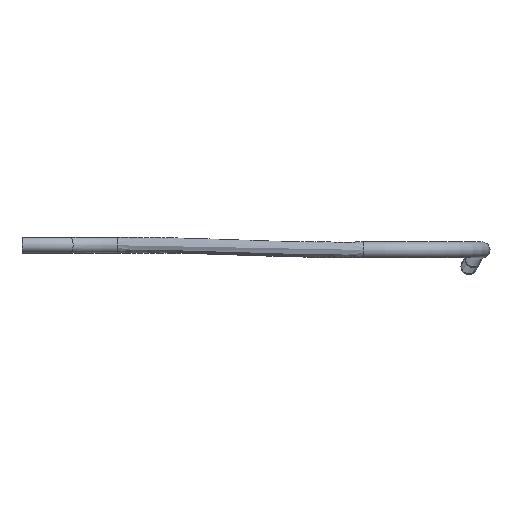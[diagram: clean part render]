
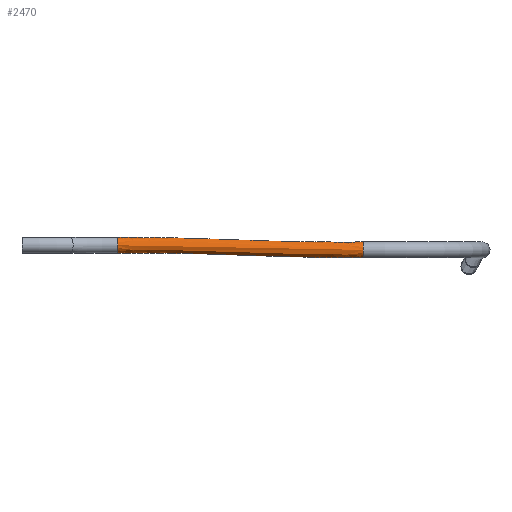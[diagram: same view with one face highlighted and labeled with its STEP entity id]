
A CAD part, front view. The second image highlights one B-rep face of the part: STEP entity #2470.
In plain terms, the highlighted free-form (B-spline) face has degree [6, 8] with [7, 9] control points.
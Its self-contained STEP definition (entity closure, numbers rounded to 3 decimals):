
#2449 = VERTEX_POINT('',#2450);
#2450 = CARTESIAN_POINT('',(-4.5,-16.412,2.037));
#2457 = EDGE_CURVE('',#2449,#2449,#2458,.T.);
#2458 = CIRCLE('',#2459,0.3);
#2459 = AXIS2_PLACEMENT_3D('',#2460,#2461,#2462);
#2460 = CARTESIAN_POINT('',(-4.5,-16.113,2.038));
#2461 = DIRECTION('',(1.,0.,0.));
#2462 = DIRECTION('',(0.,-1.,0.));
#2470 = ADVANCED_FACE('',(#2471),#2499,.T.);
#2471 = FACE_BOUND('',#2472,.T.);
#2472 = EDGE_LOOP('',(#2473,#2487,#2497,#2498));
#2473 = ORIENTED_EDGE('',*,*,#2474,.T.);
#2474 = EDGE_CURVE('',#2449,#2475,#2477,.T.);
#2475 = VERTEX_POINT('',#2476);
#2476 = CARTESIAN_POINT('',(-13.8,-16.412,2.212));
#2477 = ( BOUNDED_CURVE() B_SPLINE_CURVE(8,(#2478,#2479,#2480,#2481,
    #2482,#2483,#2484,#2485,#2486),.UNSPECIFIED.,.F.,.F.) 
B_SPLINE_CURVE_WITH_KNOTS((9,9),(0.,1.),.PIECEWISE_BEZIER_KNOTS.) CURVE(
) GEOMETRIC_REPRESENTATION_ITEM() RATIONAL_B_SPLINE_CURVE((
    1.669,1.669,1.669,1.669,
    1.669,1.669,1.669,1.669,
1.669)) REPRESENTATION_ITEM('') );
#2478 = CARTESIAN_POINT('',(-4.5,-16.412,2.037));
#2479 = CARTESIAN_POINT('',(-5.663,-16.412,2.037));
#2480 = CARTESIAN_POINT('',(-6.825,-16.412,
    2.037));
#2481 = CARTESIAN_POINT('',(-7.988,-16.412,
    2.069));
#2482 = CARTESIAN_POINT('',(-9.15,-16.412,
    2.125));
#2483 = CARTESIAN_POINT('',(-10.313,-16.412,
    2.181));
#2484 = CARTESIAN_POINT('',(-11.475,-16.412,
    2.212));
#2485 = CARTESIAN_POINT('',(-12.638,-16.412,2.212));
#2486 = CARTESIAN_POINT('',(-13.8,-16.412,2.212));
#2487 = ORIENTED_EDGE('',*,*,#2488,.F.);
#2488 = EDGE_CURVE('',#2475,#2475,#2489,.T.);
#2489 = ( BOUNDED_CURVE() B_SPLINE_CURVE(6,(#2490,#2491,#2492,#2493,
#2494,#2495,#2496),.UNSPECIFIED.,.T.,.F.) B_SPLINE_CURVE_WITH_KNOTS((1,6
    ,6,1),(-6.283,0.,6.283,12.566),
.UNSPECIFIED.) CURVE() GEOMETRIC_REPRESENTATION_ITEM() 
RATIONAL_B_SPLINE_CURVE((1.669,1.037,1.038,
    0.854,1.038,1.037,1.669)) 
REPRESENTATION_ITEM('') );
#2490 = CARTESIAN_POINT('',(-13.8,-16.412,2.212));
#2491 = CARTESIAN_POINT('',(-13.8,-16.413,2.711));
#2492 = CARTESIAN_POINT('',(-13.8,-15.797,2.783));
#2493 = CARTESIAN_POINT('',(-13.8,-15.288,2.213));
#2494 = CARTESIAN_POINT('',(-13.8,-15.796,1.643));
#2495 = CARTESIAN_POINT('',(-13.8,-16.412,1.714));
#2496 = CARTESIAN_POINT('',(-13.8,-16.412,2.212));
#2497 = ORIENTED_EDGE('',*,*,#2474,.F.);
#2498 = ORIENTED_EDGE('',*,*,#2457,.F.);
#2499 = ( BOUNDED_SURFACE() B_SPLINE_SURFACE(6,8,(
    (#2500,#2501,#2502,#2503,#2504,#2505,#2506,#2507,#2508)
    ,(#2509,#2510,#2511,#2512,#2513,#2514,#2515,#2516,#2517)
    ,(#2518,#2519,#2520,#2521,#2522,#2523,#2524,#2525,#2526)
    ,(#2527,#2528,#2529,#2530,#2531,#2532,#2533,#2534,#2535)
    ,(#2536,#2537,#2538,#2539,#2540,#2541,#2542,#2543,#2544)
    ,(#2545,#2546,#2547,#2548,#2549,#2550,#2551,#2552,#2553)
    ,(#2554,#2555,#2556,#2557,#2558,#2559,#2560,#2561,#2562
)),.UNSPECIFIED.,.T.,.F.,.F.) B_SPLINE_SURFACE_WITH_KNOTS((1,6,6,1),(9,9
    ),(-6.283,0.,6.283,12.566),(0.,1.),
.UNSPECIFIED.) GEOMETRIC_REPRESENTATION_ITEM() RATIONAL_B_SPLINE_SURFACE
((
    (1.669,1.669,1.669,1.669
      ,1.669,1.669,1.669,1.669
      ,1.669)
    ,(1.037,1.037,1.037,1.037
      ,1.037,1.037,1.037,1.037
      ,1.037)
    ,(1.038,1.038,1.038,1.038
      ,1.038,1.038,1.038,1.038
      ,1.038)
    ,(0.854,0.854,0.854,0.854
      ,0.854,0.854,0.854,0.854
      ,0.854)
    ,(1.038,1.038,1.038,1.038
      ,1.038,1.038,1.038,1.038
      ,1.038)
    ,(1.037,1.037,1.037,1.037
      ,1.037,1.037,1.037,1.037
      ,1.037)
    ,(1.669,1.669,1.669,1.669
      ,1.669,1.669,1.669,1.669
,1.669))) REPRESENTATION_ITEM('') SURFACE() );
#2500 = CARTESIAN_POINT('',(-4.5,-16.412,2.037));
#2501 = CARTESIAN_POINT('',(-5.663,-16.412,2.037));
#2502 = CARTESIAN_POINT('',(-6.825,-16.412,
    2.037));
#2503 = CARTESIAN_POINT('',(-7.988,-16.412,
    2.069));
#2504 = CARTESIAN_POINT('',(-9.15,-16.412,
    2.125));
#2505 = CARTESIAN_POINT('',(-10.313,-16.412,
    2.181));
#2506 = CARTESIAN_POINT('',(-11.475,-16.412,
    2.212));
#2507 = CARTESIAN_POINT('',(-12.638,-16.412,2.212));
#2508 = CARTESIAN_POINT('',(-13.8,-16.412,2.212));
#2509 = CARTESIAN_POINT('',(-4.5,-16.413,2.536));
#2510 = CARTESIAN_POINT('',(-5.663,-16.413,2.536));
#2511 = CARTESIAN_POINT('',(-6.815,-16.413,
    2.536));
#2512 = CARTESIAN_POINT('',(-7.967,-16.413,
    2.567));
#2513 = CARTESIAN_POINT('',(-9.126,-16.413,
    2.622));
#2514 = CARTESIAN_POINT('',(-10.292,-16.413,
    2.679));
#2515 = CARTESIAN_POINT('',(-11.465,-16.413,
    2.711));
#2516 = CARTESIAN_POINT('',(-12.638,-16.413,2.711));
#2517 = CARTESIAN_POINT('',(-13.8,-16.413,2.711));
#2518 = CARTESIAN_POINT('',(-4.5,-15.797,2.608));
#2519 = CARTESIAN_POINT('',(-5.663,-15.797,2.608));
#2520 = CARTESIAN_POINT('',(-6.814,-15.797,
    2.608));
#2521 = CARTESIAN_POINT('',(-7.964,-15.797,
    2.639));
#2522 = CARTESIAN_POINT('',(-9.122,-15.797,
    2.694));
#2523 = CARTESIAN_POINT('',(-10.289,-15.797,
    2.752));
#2524 = CARTESIAN_POINT('',(-11.464,-15.797,
    2.783));
#2525 = CARTESIAN_POINT('',(-12.638,-15.797,2.783));
#2526 = CARTESIAN_POINT('',(-13.8,-15.797,2.783));
#2527 = CARTESIAN_POINT('',(-4.5,-15.288,2.038));
#2528 = CARTESIAN_POINT('',(-5.663,-15.288,2.038));
#2529 = CARTESIAN_POINT('',(-6.825,-15.288,
    2.038));
#2530 = CARTESIAN_POINT('',(-7.987,-15.288,
    2.069));
#2531 = CARTESIAN_POINT('',(-9.15,-15.288,
    2.126));
#2532 = CARTESIAN_POINT('',(-10.312,-15.288,
    2.182));
#2533 = CARTESIAN_POINT('',(-11.475,-15.288,
    2.213));
#2534 = CARTESIAN_POINT('',(-12.638,-15.288,2.213));
#2535 = CARTESIAN_POINT('',(-13.8,-15.288,2.213));
#2536 = CARTESIAN_POINT('',(-4.5,-15.796,1.468));
#2537 = CARTESIAN_POINT('',(-5.663,-15.796,1.468));
#2538 = CARTESIAN_POINT('',(-6.836,-15.796,
    1.468));
#2539 = CARTESIAN_POINT('',(-8.01,-15.796,
    1.499));
#2540 = CARTESIAN_POINT('',(-9.177,-15.796,
    1.557));
#2541 = CARTESIAN_POINT('',(-10.335,-15.796,
    1.611));
#2542 = CARTESIAN_POINT('',(-11.486,-15.796,
    1.643));
#2543 = CARTESIAN_POINT('',(-12.638,-15.796,1.643));
#2544 = CARTESIAN_POINT('',(-13.8,-15.796,1.643));
#2545 = CARTESIAN_POINT('',(-4.5,-16.412,1.539));
#2546 = CARTESIAN_POINT('',(-5.663,-16.412,1.539));
#2547 = CARTESIAN_POINT('',(-6.835,-16.412,
    1.539));
#2548 = CARTESIAN_POINT('',(-8.008,-16.412,
    1.57));
#2549 = CARTESIAN_POINT('',(-9.174,-16.412,
    1.627));
#2550 = CARTESIAN_POINT('',(-10.333,-16.412,
    1.683));
#2551 = CARTESIAN_POINT('',(-11.485,-16.412,
    1.714));
#2552 = CARTESIAN_POINT('',(-12.638,-16.412,1.714));
#2553 = CARTESIAN_POINT('',(-13.8,-16.412,1.714));
#2554 = CARTESIAN_POINT('',(-4.5,-16.412,2.037));
#2555 = CARTESIAN_POINT('',(-5.663,-16.412,2.037));
#2556 = CARTESIAN_POINT('',(-6.825,-16.412,
    2.037));
#2557 = CARTESIAN_POINT('',(-7.988,-16.412,
    2.069));
#2558 = CARTESIAN_POINT('',(-9.15,-16.412,
    2.125));
#2559 = CARTESIAN_POINT('',(-10.313,-16.412,
    2.181));
#2560 = CARTESIAN_POINT('',(-11.475,-16.412,
    2.212));
#2561 = CARTESIAN_POINT('',(-12.638,-16.412,2.212));
#2562 = CARTESIAN_POINT('',(-13.8,-16.412,2.212));
